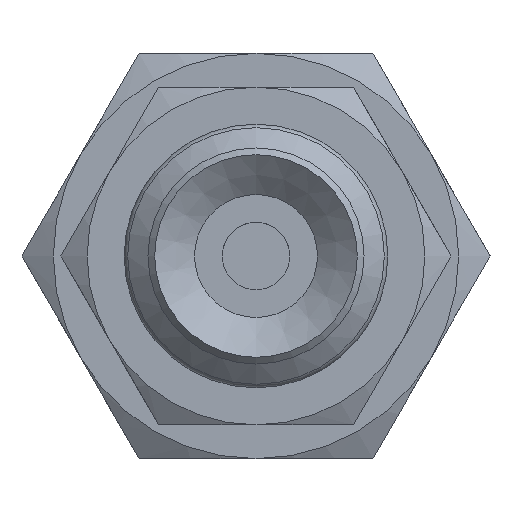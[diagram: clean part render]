
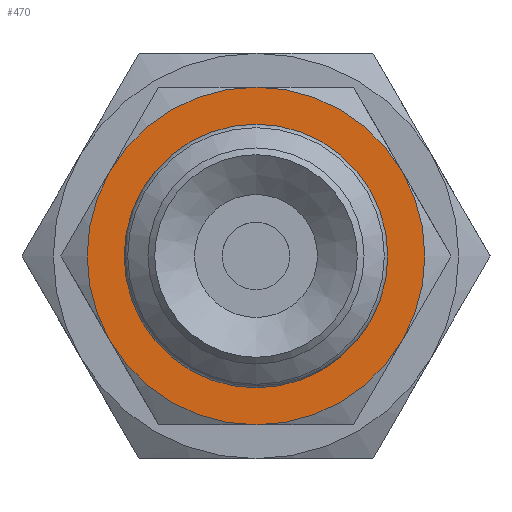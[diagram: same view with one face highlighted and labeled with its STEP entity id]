
A CAD part, front view. The second image highlights one B-rep face of the part: STEP entity #470.
In plain terms, the highlighted planar face has unit normal (0, -1, 0).
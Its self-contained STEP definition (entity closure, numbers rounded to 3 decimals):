
#470=ADVANCED_FACE('',(#689,#690),#691,.T.);
#689=FACE_BOUND('',#982,.T.);
#690=FACE_OUTER_BOUND('',#983,.T.);
#691=PLANE('',#984);
#982=EDGE_LOOP('',(#1613));
#983=EDGE_LOOP('',(#1614,#1615,#1616,#1617,#1618,#1619));
#984=AXIS2_PLACEMENT_3D('',#1620,#1621,#1622);
#1613=ORIENTED_EDGE('',*,*,#2006,.F.);
#1614=ORIENTED_EDGE('',*,*,#2047,.T.);
#1615=ORIENTED_EDGE('',*,*,#1988,.T.);
#1616=ORIENTED_EDGE('',*,*,#1976,.T.);
#1617=ORIENTED_EDGE('',*,*,#2004,.T.);
#1618=ORIENTED_EDGE('',*,*,#2048,.T.);
#1619=ORIENTED_EDGE('',*,*,#2049,.T.);
#1620=CARTESIAN_POINT('',(2.0,0.,0.0));
#1621=DIRECTION('',(0.0,-1.0,0.0));
#1622=DIRECTION('',(0.0,0.0,-1.0));
#1976=EDGE_CURVE('',#2242,#2253,#2255,.T.);
#1988=EDGE_CURVE('',#2266,#2242,#2275,.T.);
#2004=EDGE_CURVE('',#2253,#2286,#2301,.T.);
#2006=EDGE_CURVE('',#2304,#2304,#2305,.T.);
#2047=EDGE_CURVE('',#2276,#2266,#2380,.T.);
#2048=EDGE_CURVE('',#2286,#2297,#2381,.T.);
#2049=EDGE_CURVE('',#2297,#2276,#2382,.T.);
#2242=VERTEX_POINT('',#2884);
#2253=VERTEX_POINT('',#2905);
#2255=CIRCLE('',#2909,5.0);
#2266=VERTEX_POINT('',#2927);
#2275=CIRCLE('',#2945,5.0);
#2276=VERTEX_POINT('',#2946);
#2286=VERTEX_POINT('',#2965);
#2297=VERTEX_POINT('',#2987);
#2301=CIRCLE('',#2997,5.0);
#2304=VERTEX_POINT('',#3000);
#2305=CIRCLE('',#3001,2.0);
#2380=CIRCLE('',#3153,5.0);
#2381=CIRCLE('',#3154,5.0);
#2382=CIRCLE('',#3155,5.0);
#2884=CARTESIAN_POINT('',(4.33,0.0,2.5));
#2905=CARTESIAN_POINT('',(0.0,0.0,5.0));
#2909=AXIS2_PLACEMENT_3D('',#3352,#3353,#3354);
#2927=CARTESIAN_POINT('',(4.33,0.0,-2.5));
#2945=AXIS2_PLACEMENT_3D('',#3363,#3364,#3365);
#2946=CARTESIAN_POINT('',(0.0,0.0,-5.0));
#2965=CARTESIAN_POINT('',(-4.33,0.,2.5));
#2987=CARTESIAN_POINT('',(-4.33,0.0,-2.5));
#2997=AXIS2_PLACEMENT_3D('',#3371,#3372,#3373);
#3000=CARTESIAN_POINT('',(0.0,0.,-2.0));
#3001=AXIS2_PLACEMENT_3D('',#3377,#3378,#3379);
#3153=AXIS2_PLACEMENT_3D('',#3448,#3449,#3450);
#3154=AXIS2_PLACEMENT_3D('',#3451,#3452,#3453);
#3155=AXIS2_PLACEMENT_3D('',#3454,#3455,#3456);
#3352=CARTESIAN_POINT('',(0.0,0.,0.0));
#3353=DIRECTION('',(0.0,-1.0,0.0));
#3354=DIRECTION('',(0.0,0.0,-1.0));
#3363=CARTESIAN_POINT('',(0.0,0.,0.0));
#3364=DIRECTION('',(0.0,-1.0,0.0));
#3365=DIRECTION('',(0.0,0.0,-1.0));
#3371=CARTESIAN_POINT('',(0.0,0.,0.0));
#3372=DIRECTION('',(0.0,-1.0,0.0));
#3373=DIRECTION('',(0.0,0.0,-1.0));
#3377=CARTESIAN_POINT('',(0.0,0.,0.0));
#3378=DIRECTION('',(0.0,-1.0,0.0));
#3379=DIRECTION('',(0.0,0.0,-1.0));
#3448=CARTESIAN_POINT('',(0.0,0.,0.0));
#3449=DIRECTION('',(0.0,-1.0,0.0));
#3450=DIRECTION('',(0.0,0.0,-1.0));
#3451=CARTESIAN_POINT('',(0.0,0.,0.0));
#3452=DIRECTION('',(0.0,-1.0,0.0));
#3453=DIRECTION('',(0.0,0.0,-1.0));
#3454=CARTESIAN_POINT('',(0.0,0.,0.0));
#3455=DIRECTION('',(0.0,-1.0,0.0));
#3456=DIRECTION('',(0.0,0.0,-1.0));
